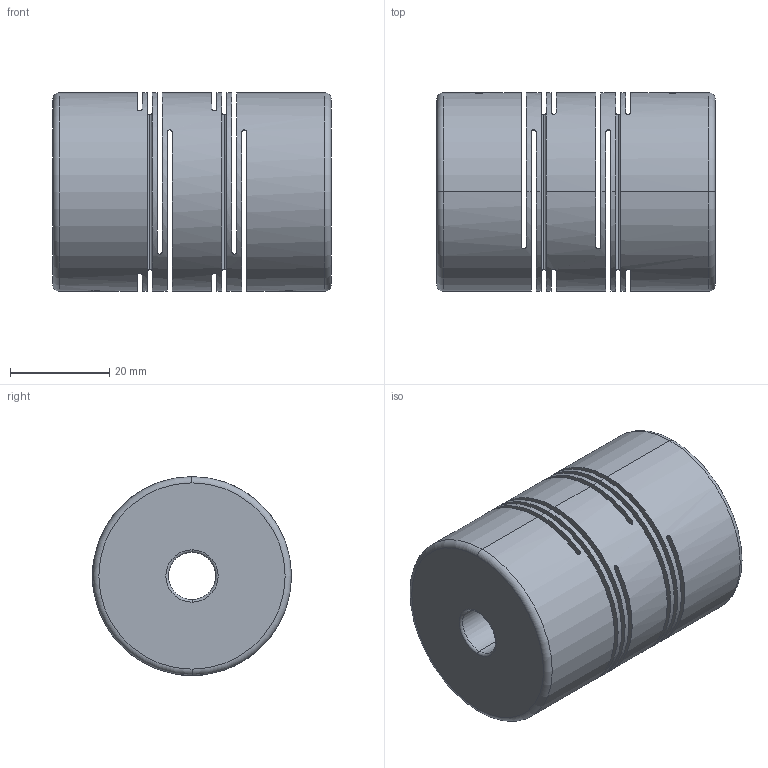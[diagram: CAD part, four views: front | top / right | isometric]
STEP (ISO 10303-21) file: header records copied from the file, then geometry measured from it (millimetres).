
FILE_DESCRIPTION (( 'STEP AP203' ), '1' );
FILE_NAME ('FSMML40-9.525x12.STEP', '2013-12-28T06:56:27', ( '123' ), ( '' ), 'SwSTEP 2.0', 'SolidWorks 2013', '' );
FILE_SCHEMA (( 'CONFIG_CONTROL_DESIGN' ));
Length unit declared in the file: millimetre
Products named in the file (1): FSMML40-9.525x12
Bounding box: 56 x 40 x 40 mm (x, y, z)
Surface area: 25685.2 mm2 (no closed solid volume)
Topology: 0 solids, 5 shells, 100 faces, 306 edges, 208 vertices
Faces by surface type: plane 46, cylinder 30, bspline 8, torus 8, cone 8
Entity records: 4391 total; most frequent: CARTESIAN_POINT 1615, ORIENTED_EDGE 544, DIRECTION 540, EDGE_CURVE 306, VERTEX_POINT 208, AXIS2_PLACEMENT_3D 205, VECTOR 130, LINE 130
